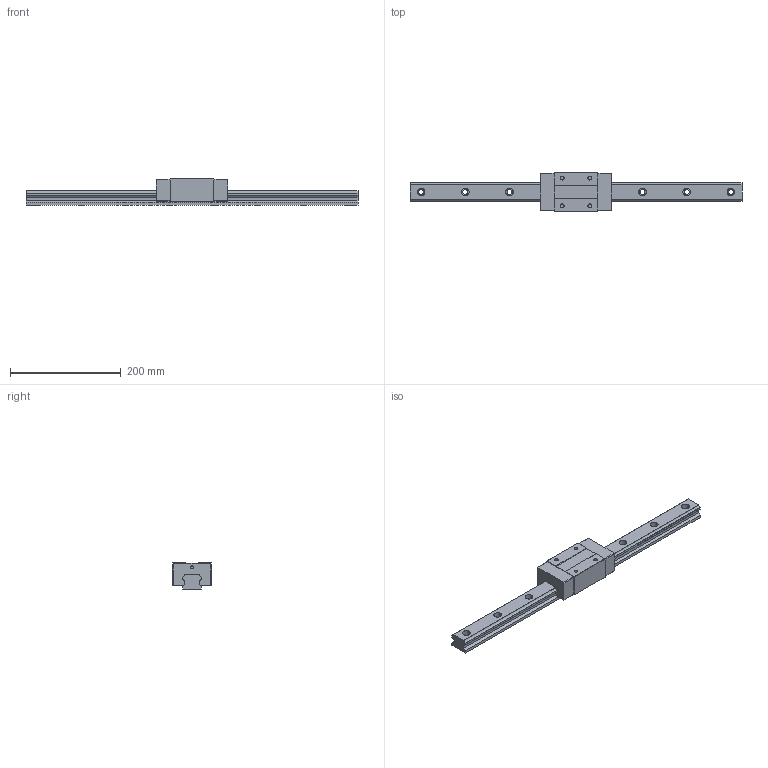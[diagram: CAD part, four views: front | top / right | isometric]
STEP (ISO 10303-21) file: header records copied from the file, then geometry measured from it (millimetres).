
FILE_DESCRIPTION (( 'STEP AP203' ), '1' );
FILE_NAME ('TRS35VN-WZ-§ï.STEP', '2023-08-31T07:10:21', ( '' ), ( '' ), 'SwSTEP 2.0', 'SolidWorks 2022', '' );
FILE_SCHEMA (( 'CONFIG_CONTROL_DESIGN' ));
Length unit declared in the file: millimetre
Products named in the file (1): TRS35VN-WZ-改
Bounding box: 600 x 70 x 48 mm (x, y, z)
Volume: 734512.1 mm3; surface area: 114718.1 mm2
Topology: 1 solids, 1 shells, 164 faces, 448 edges, 296 vertices
Faces by surface type: plane 84, cylinder 80
Entity records: 5345 total; most frequent: DIRECTION 942, CARTESIAN_POINT 909, ORIENTED_EDGE 896, EDGE_CURVE 448, AXIS2_PLACEMENT_3D 329, VERTEX_POINT 296, VECTOR 284, LINE 284
